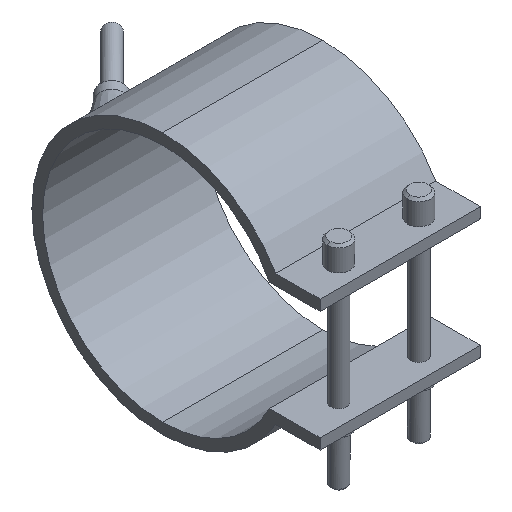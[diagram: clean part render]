
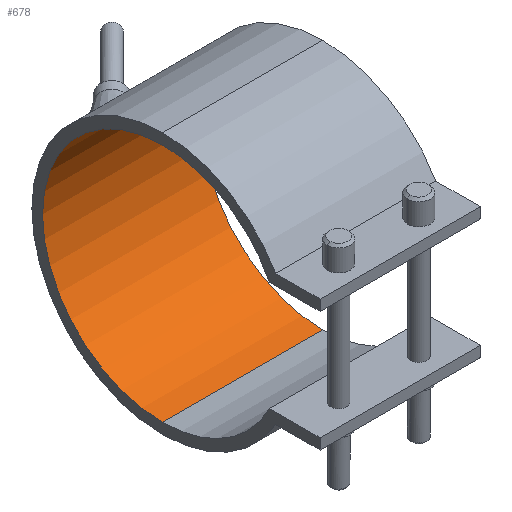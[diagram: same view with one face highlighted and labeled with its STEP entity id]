
A CAD part, isometric view. The second image highlights one B-rep face of the part: STEP entity #678.
In plain terms, the highlighted cylindrical face has radius 45 mm (diameter 90 mm), a partial arc.
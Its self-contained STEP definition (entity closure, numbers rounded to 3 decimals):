
#348=CARTESIAN_POINT('Vertex',(30.,0.,45.)) ;
#353=CARTESIAN_POINT('Axis2P3D Location',(30.,0.,0.)) ;
#357=CARTESIAN_POINT('Vertex',(30.,0.,-45.)) ;
#464=CARTESIAN_POINT('Vertex',(-30.,0.,-45.)) ;
#467=CARTESIAN_POINT('Axis2P3D Location',(-30.,0.,0.)) ;
#471=CARTESIAN_POINT('Vertex',(-30.,0.,45.)) ;
#650=CARTESIAN_POINT('Line Origine',(30.,0.,45.)) ;
#662=CARTESIAN_POINT('Axis2P3D Location',(30.,0.,0.)) ;
#667=CARTESIAN_POINT('Line Origine',(30.,0.,-45.)) ;
#354=DIRECTION('Axis2P3D Direction',(1.,0.,0.)) ;
#468=DIRECTION('Axis2P3D Direction',(1.,0.,0.)) ;
#651=DIRECTION('Vector Direction',(1.,0.,0.)) ;
#663=DIRECTION('Axis2P3D Direction',(1.,0.,-0.)) ;
#664=DIRECTION('Axis2P3D XDirection',(0.,0.,-1.)) ;
#668=DIRECTION('Vector Direction',(1.,0.,0.)) ;
#355=AXIS2_PLACEMENT_3D('Circle Axis2P3D',#353,#354,$) ;
#469=AXIS2_PLACEMENT_3D('Circle Axis2P3D',#467,#468,$) ;
#665=AXIS2_PLACEMENT_3D('Cylinder Axis2P3D',#662,#663,#664) ;
#673=ORIENTED_EDGE('',*,*,#359,.T.) ;
#674=ORIENTED_EDGE('',*,*,#654,.T.) ;
#675=ORIENTED_EDGE('',*,*,#473,.F.) ;
#676=ORIENTED_EDGE('',*,*,#671,.T.) ;
#652=VECTOR('Line Direction',#651,1.) ;
#669=VECTOR('Line Direction',#668,1.) ;
#678=ADVANCED_FACE('29090060',(#677),#666,.F.) ;
#356=CIRCLE('generated circle',#355,45.) ;
#470=CIRCLE('generated circle',#469,45.) ;
#666=CYLINDRICAL_SURFACE('generated cylinder',#665,45.) ;
#359=EDGE_CURVE('',#358,#349,#356,.T.) ;
#473=EDGE_CURVE('',#465,#472,#470,.T.) ;
#654=EDGE_CURVE('',#349,#472,#653,.F.) ;
#671=EDGE_CURVE('',#465,#358,#670,.T.) ;
#672=EDGE_LOOP('',(#673,#674,#675,#676)) ;
#677=FACE_OUTER_BOUND('',#672,.T.) ;
#653=LINE('Line',#650,#652) ;
#670=LINE('Line',#667,#669) ;
#349=VERTEX_POINT('',#348) ;
#358=VERTEX_POINT('',#357) ;
#465=VERTEX_POINT('',#464) ;
#472=VERTEX_POINT('',#471) ;
